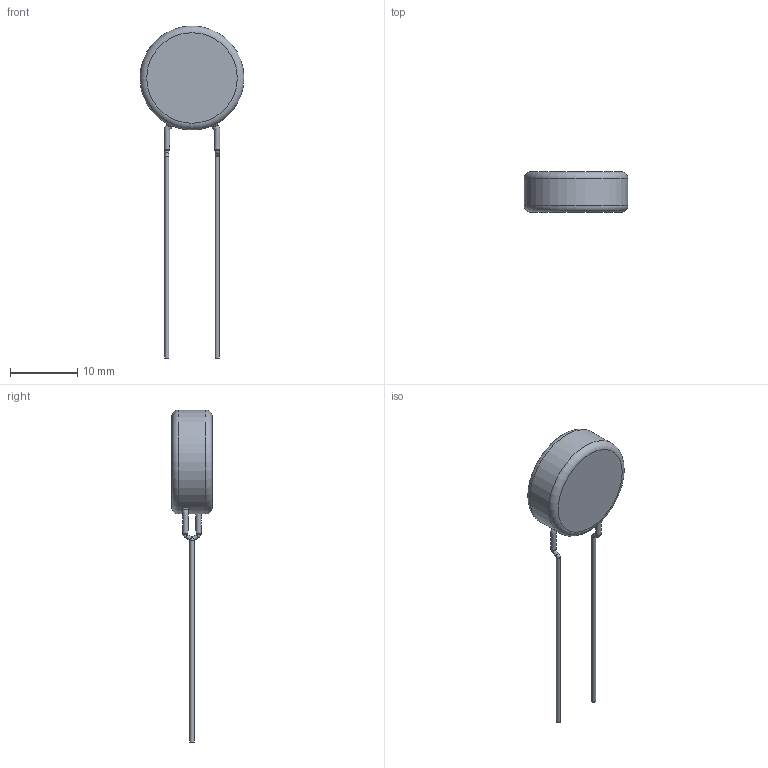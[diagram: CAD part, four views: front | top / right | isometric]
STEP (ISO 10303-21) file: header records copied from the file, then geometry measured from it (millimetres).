
FILE_DESCRIPTION(/* description */ (''),/* implementation_level */ '2;1');
FILE_NAME(/* name */ 'I:\Marketing\M6t1\3D-Models\Zchng-Werk-3\Upload for homepage\BCC\AY2\Inline Dia 0,6 LS 7,5\AY2103K61Y5VS63V7.stp',/* time_stamp */ '2020-11-06T09:26:40+01:00',/* author */ ('truediger'),/* organization */ (''),/* preprocessor_version */ 'ST-DEVELOPER v18',/* originating_system */ 'Autodesk Inventor 2020',/* authorisation */ '');
FILE_SCHEMA (('AUTOMOTIVE_DESIGN { 1 0 10303 214 3 1 1 }'));
Length unit declared in the file: millimetre
Products named in the file (1): Bauteil10
Bounding box: 15.5 x 6 x 49.5 mm (x, y, z)
Volume: 1133.9 mm3; surface area: 765.1 mm2
Topology: 1 solids, 1 shells, 27 faces, 63 edges, 42 vertices
Faces by surface type: cylinder 9, torus 6, plane 6, bspline 6
Full cylindrical faces by diameter (mm): 0.6 x4, 15.5 x1
Entity records: 2345 total; most frequent: CARTESIAN_POINT 1668, DIRECTION 133, ORIENTED_EDGE 126, AXIS2_PLACEMENT_3D 64, EDGE_CURVE 63, VERTEX_POINT 42, CIRCLE 40, EDGE_LOOP 31
